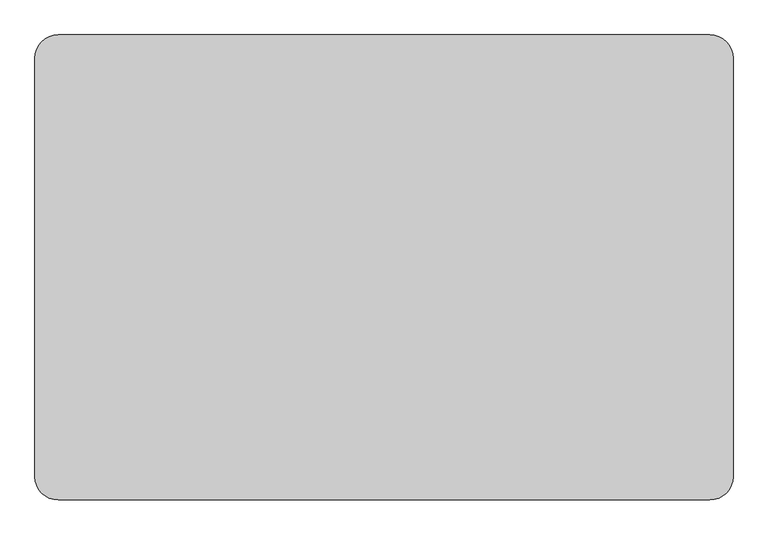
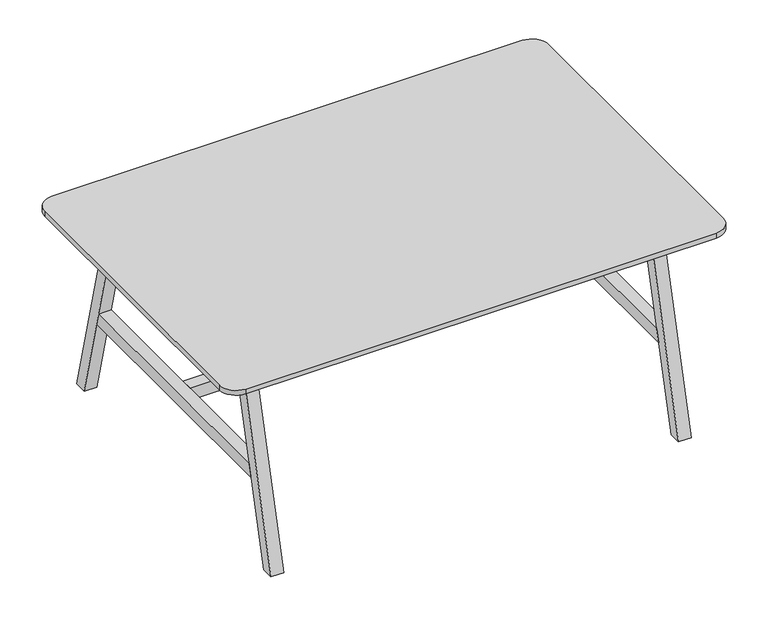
"""IFC4 building model written with IfcOpenShell, lengths in millimetres: furniture geometry, BDG_BossDesign_Tbls_AgentTables4Legs : AGE-DT-1800-1200-3D."""

from ifc_helpers import new_model, si_unit, point, frame, frame_2d, origin, place, context, project, spatial, polyline, circle_curve, trimmed, segment, composite_curve, outline, extrude, source, transform, mapped, element, save


def furniture_568c04c6(model_context):
    return source(origin(), model_context, "Body", "SweptSolid", [
        extrude(outline(polyline([(-466.3977249, 345.0), (466.3977249, 345.0), (477.9545427, 300.0), (-477.9545427, 300.0), (-466.3977249, 345.0)])), frame((705.0, 0.0, 0.0), z_axis=(1.0, 0.0, 0.0), x_axis=(0.0, 1.0, 0.0)), (0.0, 0.0, 1.0), 45.0),
        extrude(outline(polyline([(600.0, 0.0), (554.9999949, 0.0), (385.5, 660.0), (430.5000051, 660.0), (600.0, 0.0)])), frame((-750.0, 0.0, 0.0), z_axis=(1.0, 0.0, 0.0), x_axis=(0.0, 1.0, 0.0)), (0.0, 0.0, 1.0), 45.0),
        extrude(outline(polyline([(-600.0, 0.0), (-430.5000051, 660.0), (-385.5, 660.0), (-554.9999949, 0.0), (-600.0, 0.0)])), frame((-750.0, 0.0, 0.0), z_axis=(1.0, 0.0, 0.0), x_axis=(0.0, 1.0, 0.0)), (0.0, 0.0, 1.0), 45.0),
        extrude(outline(polyline([(-379.5, 722.0), (379.5, 722.0), (397.9691272, 650.0), (-397.9691272, 650.0), (-379.5, 722.0)])), frame((288.0, 0.0, 0.0), z_axis=(1.0, 0.0, 0.0), x_axis=(0.0, 1.0, 0.0)), (0.0, 0.0, 1.0), 24.0),
        extrude(outline(polyline([(-466.3977249, 345.0), (466.3977249, 345.0), (477.9545427, 300.0), (-477.9545427, 300.0), (-466.3977249, 345.0)])), frame((-750.0, 0.0, 0.0), z_axis=(1.0, 0.0, 0.0), x_axis=(0.0, 1.0, 0.0)), (0.0, 0.0, 1.0), 45.0),
        extrude(outline(polyline([(-379.5, 722.0), (379.5, 722.0), (397.9691272, 650.0), (-397.9691272, 650.0), (-379.5, 722.0)])), frame((-312.0, 0.0, 0.0), z_axis=(1.0, 0.0, 0.0), x_axis=(0.0, 1.0, 0.0)), (0.0, 0.0, 1.0), 24.0),
        extrude(outline(polyline([(-426.6006165, 634.973938), (-404.2770691, 722.0), (-379.5, 722.0), (-401.8235474, 634.973938), (-426.6006165, 634.973938)])), frame((-705.0, 0.0, 0.0), z_axis=(1.0, 0.0, 0.0), x_axis=(0.0, 1.0, 0.0)), (0.0, 0.0, 1.0), 1410.0),
        extrude(outline(polyline([(426.6006165, 634.973938), (401.8235474, 634.973938), (379.5, 722.0), (404.2770691, 722.0), (426.6006165, 634.973938)])), frame((-705.0, 0.0, 0.0), z_axis=(1.0, 0.0, 0.0), x_axis=(0.0, 1.0, 0.0)), (0.0, 0.0, 1.0), 1410.0),
        extrude(outline(polyline([(599.7999878, 0.0), (554.7999827, 0.0), (385.5, 660.0), (430.5000051, 660.0), (599.7999878, 0.0)])), frame((705.0, 0.0, 0.0), z_axis=(1.0, 0.0, 0.0), x_axis=(0.0, 1.0, 0.0)), (0.0, 0.0, 1.0), 45.0),
        extrude(outline(polyline([(-599.7999878, 0.0), (-430.5000051, 660.0), (-385.5, 660.0), (-554.7999827, 0.0), (-599.7999878, 0.0)])), frame((705.0, 0.0, 0.0), z_axis=(1.0, 0.0, 0.0), x_axis=(0.0, 1.0, 0.0)), (0.0, 0.0, 1.0), 45.0),
        extrude(outline(polyline([(705.0, 22.5000305), (705.0, -22.5000305), (-705.0, -22.5000305), (-705.0, 22.5000305), (705.0, 22.5000305)])), frame((0.0, 0.0, 300.0), z_axis=(0.0, 0.0, 1.0), x_axis=(1.0, 0.0, 0.0)), (0.0, 0.0, 1.0), 45.0),
        extrude(outline(composite_curve([segment(trimmed(circle_curve(frame_2d((840.0, 540.0)), 60.0), [point((840.0, 600.0))], [point((900.0, 540.0))], False, "CARTESIAN"), True, "CONTINUOUS"), segment(polyline([(900.0, 540.0), (900.0, -540.0)]), True, "CONTINUOUS"), segment(trimmed(circle_curve(frame_2d((840.0, -540.0)), 60.0), [point((900.0, -540.0))], [point((840.0, -600.0))], False, "CARTESIAN"), True, "CONTINUOUS"), segment(polyline([(840.0, -600.0), (-840.0, -600.0)]), True, "CONTINUOUS"), segment(trimmed(circle_curve(frame_2d((-840.0, -540.0)), 60.0), [point((-840.0, -600.0))], [point((-900.0, -540.0))], False, "CARTESIAN"), True, "CONTINUOUS"), segment(polyline([(-900.0, -540.0), (-900.0, 540.0)]), True, "CONTINUOUS"), segment(trimmed(circle_curve(frame_2d((-840.0, 540.0)), 60.0), [point((-900.0, 540.0))], [point((-840.0, 600.0))], False, "CARTESIAN"), True, "CONTINUOUS"), segment(polyline([(-840.0, 600.0), (840.0, 600.0)]), True, "CONTINUOUS")], self_intersect=False)), frame((0.0, 0.0, 722.0), z_axis=(0.0, 0.0, 1.0), x_axis=(1.0, 0.0, 0.0)), (0.0, 0.0, 1.0), 18.0),
    ])


if __name__ == "__main__":
    model = new_model("IFC4")
    model_context = context("Model", 3, world=origin())
    ifc_project = project(units=[si_unit("LENGTHUNIT", "METRE", prefix="MILLI")], contexts=[model_context])
    site = spatial("IfcSite", under=ifc_project)
    building = spatial("IfcBuilding", under=site)
    placement = place(None, origin())
    furniture_shape = furniture_568c04c6(model_context)
    element("IfcFurniture", 1, ObjectType="BDG_BossDesign_Tbls_AgentTables4Legs : AGE-DT-1800-1200-3D", at=placement, inside=building, context=model_context, shape_type="MappedRepresentation", body=[
        mapped(furniture_shape, transform((0.0, 0.0, 0.0), x_axis=(1.0, 0.0, 0.0), y_axis=(0.0, 1.0, 0.0), z_axis=(0.0, 0.0, 1.0))),
    ])
    save(model, "model.ifc")
